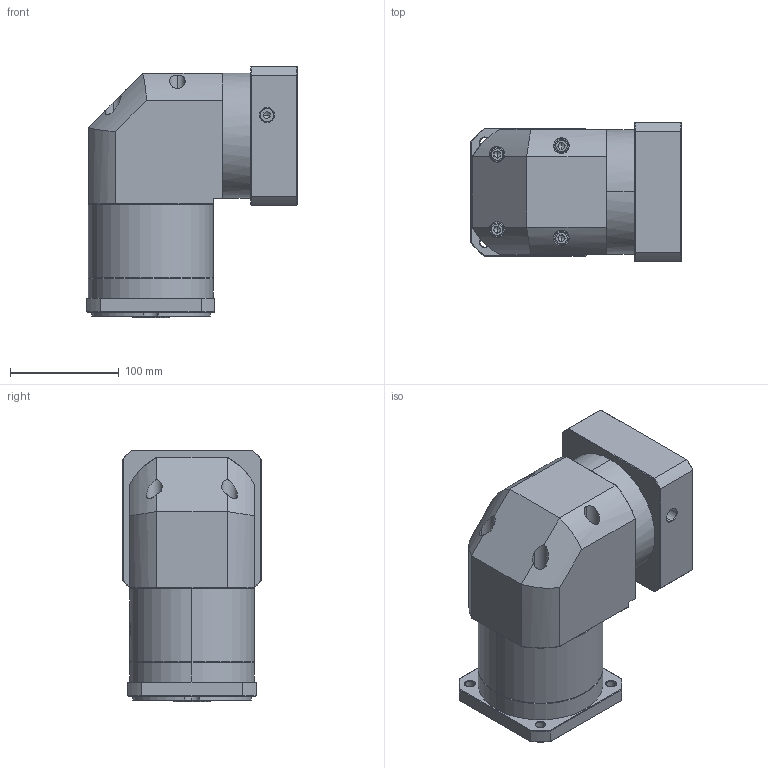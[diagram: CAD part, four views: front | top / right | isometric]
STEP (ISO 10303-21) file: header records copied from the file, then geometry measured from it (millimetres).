
FILE_DESCRIPTION (( 'STEP AP214' ), '1' );
FILE_NAME ('ZFR120A-K25-L2-P2-19-110-145-M8.step', '2023-08-27T08:14:36', ( '' ), ( '' ), 'SwSTEP 2.0', 'SolidWorks 2016', '' );
FILE_SCHEMA (( 'AUTOMOTIVE_DESIGN' ));
Length unit declared in the file: millimetre
Products named in the file (1): ZFR120A-K25-L2-P2-19-110-145-M8
Bounding box: 193.9 x 128 x 231.5 mm (x, y, z)
Volume: 3228668.7 mm3; surface area: 259828 mm2
Topology: 6 solids, 6 shells, 2209 faces, 5823 edges, 3719 vertices
Faces by surface type: plane 1054, bspline 416, cylinder 401, cone 330, torus 8
Entity records: 118693 total; most frequent: CARTESIAN_POINT 45113, ORIENTED_EDGE 11590, DIRECTION 8417, EDGE_CURVE 5795, VERTEX_POINT 3719, LINE 3105, VECTOR 3105, AXIS2_PLACEMENT_3D 2656
